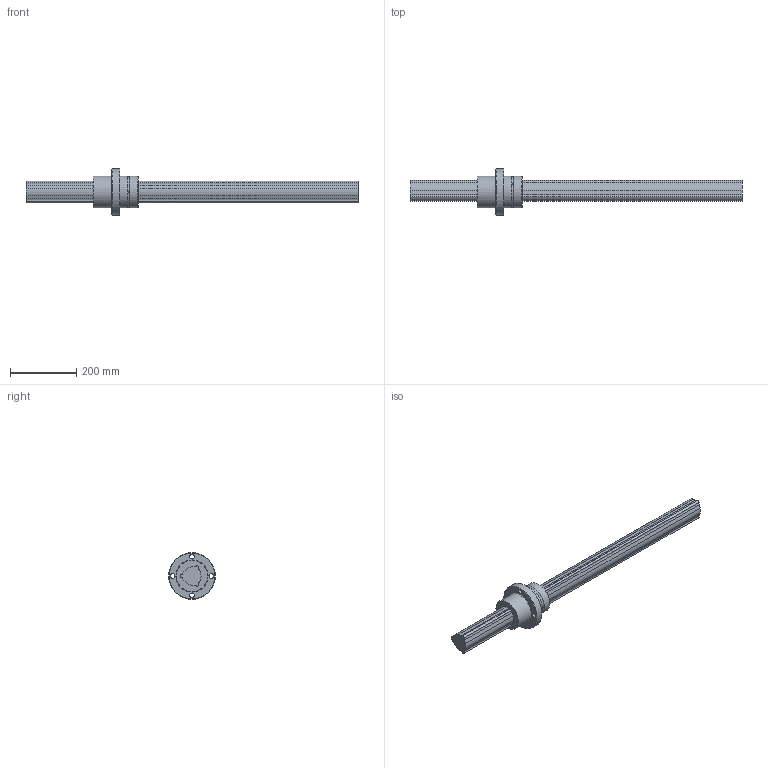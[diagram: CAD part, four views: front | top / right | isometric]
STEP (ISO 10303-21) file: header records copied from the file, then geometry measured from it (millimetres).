
FILE_DESCRIPTION(/* description */ ('STEP AP214'),/* implementation_level */ '2;1');
FILE_NAME(/* name */ 'LBR70+1000L(135202.50)',/* time_stamp */ '2024-09-04T13:09:47+02:00',/* author */ ('License CC BY-ND 4.0'),/* organization */ ('CADENAS'),/* preprocessor_version */ 'ST-DEVELOPER v19.3',/* originating_system */ 'PARTsolutions',/* authorisation */ ' ');
FILE_SCHEMA (('AUTOMOTIVE_DESIGN {1 0 10303 214 3 1 1}'));
Length unit declared in the file: millimetre
Products named in the file (3): LBR70+1000L(135202.50); LBR7011000 Spline Shaft; LBR70 Nut
Assembly tree (2 placements, depth 2):
  LBR70+1000L(135202.50)
    LBR7011000 Spline Shaft
    LBR70 Nut
Bounding box: 1000 x 140.6 x 140.6 mm (x, y, z)
Volume: 3423982.2 mm3; surface area: 308988.8 mm2
Topology: 2 solids, 2 shells, 63 faces, 158 edges, 104 vertices
Faces by surface type: cylinder 35, plane 21, torus 5, cone 2
Full cylindrical faces by diameter (mm): 4 x3, 14 x4, 95 x2, 95.6 x1, 140.6 x1
Entity records: 1910 total; most frequent: DIRECTION 338, CARTESIAN_POINT 336, ORIENTED_EDGE 272, AXIS2_PLACEMENT_3D 139, EDGE_CURVE 136, VERTEX_POINT 100, EDGE_LOOP 96, FACE_BOUND 96
